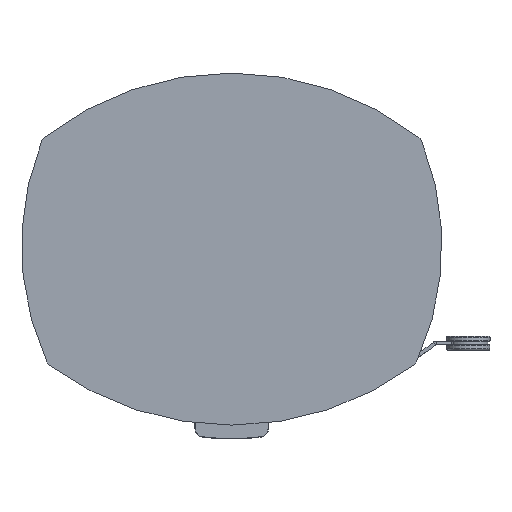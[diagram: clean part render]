
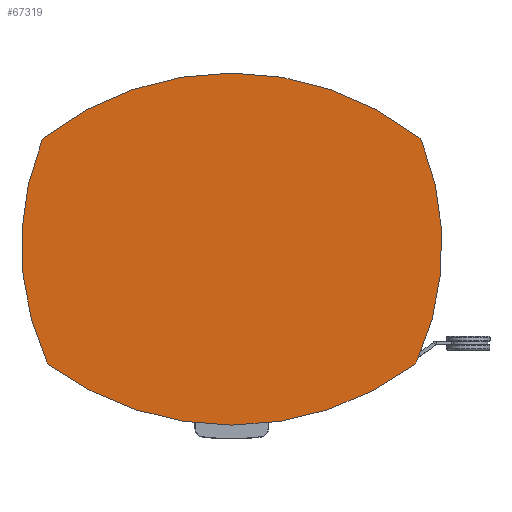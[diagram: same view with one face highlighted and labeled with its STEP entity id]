
A CAD part, top view. The second image highlights one B-rep face of the part: STEP entity #67319.
In plain terms, the highlighted planar face has unit normal (0, 0, 1).
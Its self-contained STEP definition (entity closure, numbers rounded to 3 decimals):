
#5156=FACE_OUTER_BOUND('',#8879,.T.);
#8879=EDGE_LOOP('',(#58850,#58851,#58852,#58853,#58854,#58855,#58856,#58857));
#11200=CIRCLE('',#72839,10.);
#11201=CIRCLE('',#72841,355.);
#11202=CIRCLE('',#72842,10.);
#11203=CIRCLE('',#72843,323.);
#11204=CIRCLE('',#72844,10.);
#11205=CIRCLE('',#72845,352.);
#11206=CIRCLE('',#72846,10.);
#11207=CIRCLE('',#72847,323.);
#30749=VERTEX_POINT('',#112307);
#30750=VERTEX_POINT('',#112309);
#30751=VERTEX_POINT('',#112313);
#30752=VERTEX_POINT('',#112315);
#30753=VERTEX_POINT('',#112317);
#30754=VERTEX_POINT('',#112319);
#30755=VERTEX_POINT('',#112321);
#30756=VERTEX_POINT('',#112323);
#40118=EDGE_CURVE('',#30749,#30750,#11200,.T.);
#40120=EDGE_CURVE('',#30751,#30749,#11201,.T.);
#40121=EDGE_CURVE('',#30752,#30751,#11202,.T.);
#40122=EDGE_CURVE('',#30753,#30752,#11203,.T.);
#40123=EDGE_CURVE('',#30754,#30753,#11204,.T.);
#40124=EDGE_CURVE('',#30755,#30754,#11205,.T.);
#40125=EDGE_CURVE('',#30756,#30755,#11206,.T.);
#40126=EDGE_CURVE('',#30750,#30756,#11207,.T.);
#58850=ORIENTED_EDGE('',*,*,#40118,.F.);
#58851=ORIENTED_EDGE('',*,*,#40120,.F.);
#58852=ORIENTED_EDGE('',*,*,#40121,.F.);
#58853=ORIENTED_EDGE('',*,*,#40122,.F.);
#58854=ORIENTED_EDGE('',*,*,#40123,.F.);
#58855=ORIENTED_EDGE('',*,*,#40124,.F.);
#58856=ORIENTED_EDGE('',*,*,#40125,.F.);
#58857=ORIENTED_EDGE('',*,*,#40126,.F.);
#60937=PLANE('',#72840);
#67319=ADVANCED_FACE('',(#5156),#60937,.F.);
#72839=AXIS2_PLACEMENT_3D('',#112310,#90589,#90590);
#72840=AXIS2_PLACEMENT_3D('',#112312,#90592,#90593);
#72841=AXIS2_PLACEMENT_3D('',#112314,#90594,#90595);
#72842=AXIS2_PLACEMENT_3D('',#112316,#90596,#90597);
#72843=AXIS2_PLACEMENT_3D('',#112318,#90598,#90599);
#72844=AXIS2_PLACEMENT_3D('',#112320,#90600,#90601);
#72845=AXIS2_PLACEMENT_3D('',#112322,#90602,#90603);
#72846=AXIS2_PLACEMENT_3D('',#112324,#90604,#90605);
#72847=AXIS2_PLACEMENT_3D('',#112325,#90606,#90607);
#90589=DIRECTION('center_axis',(0.,0.,
-1.));
#90590=DIRECTION('ref_axis',(-0.776,-0.631,0.));
#90592=DIRECTION('center_axis',(0.,0.,
-1.));
#90593=DIRECTION('ref_axis',(1.,0.,0.));
#90594=DIRECTION('center_axis',(0.,0.,
-1.));
#90595=DIRECTION('ref_axis',(0.599,-0.801,0.));
#90596=DIRECTION('center_axis',(0.,0.,
-1.));
#90597=DIRECTION('ref_axis',(0.776,-0.631,0.));
#90598=DIRECTION('center_axis',(0.,0.,
-1.));
#90599=DIRECTION('ref_axis',(0.924,0.382,0.));
#90600=DIRECTION('center_axis',(0.,0.,
-1.));
#90601=DIRECTION('ref_axis',(0.798,0.602,0.));
#90602=DIRECTION('center_axis',(0.,0.,
-1.));
#90603=DIRECTION('ref_axis',(-0.621,0.784,0.));
#90604=DIRECTION('center_axis',(0.,0.,
-1.));
#90605=DIRECTION('ref_axis',(-0.798,0.602,0.));
#90606=DIRECTION('center_axis',(0.,0.,
-1.));
#90607=DIRECTION('ref_axis',(-0.906,-0.424,0.));
#112307=CARTESIAN_POINT('',(-210.525,-285.84,354.));
#112309=CARTESIAN_POINT('',(-213.687,-281.95,354.));
#112310=CARTESIAN_POINT('Origin',(-204.595,-277.788,354.));
#112312=CARTESIAN_POINT('Origin',(0.,-151.453,
354.));
#112313=CARTESIAN_POINT('',(210.525,-285.84,354.));
#112314=CARTESIAN_POINT('Origin',(0.,0.,
354.));
#112315=CARTESIAN_POINT('',(213.687,-281.95,354.));
#112316=CARTESIAN_POINT('Origin',(204.595,-277.788,354.));
#112317=CARTESIAN_POINT('',(219.469,-26.473,354.));
#112318=CARTESIAN_POINT('Origin',(-80.,-147.5,354.));
#112319=CARTESIAN_POINT('',(216.343,-22.332,354.));
#112320=CARTESIAN_POINT('Origin',(210.197,-30.22,354.));
#112321=CARTESIAN_POINT('',(-216.343,-22.332,354.));
#112322=CARTESIAN_POINT('Origin',(0.,-300.,
354.));
#112323=CARTESIAN_POINT('',(-219.469,-26.473,354.));
#112324=CARTESIAN_POINT('Origin',(-210.197,-30.22,354.));
#112325=CARTESIAN_POINT('Origin',(80.,-147.5,354.));
